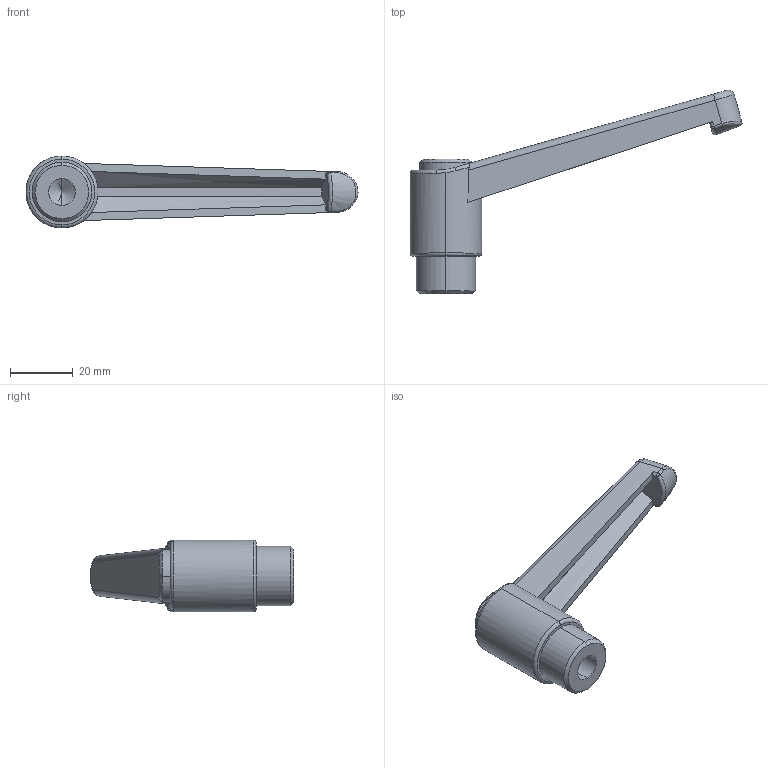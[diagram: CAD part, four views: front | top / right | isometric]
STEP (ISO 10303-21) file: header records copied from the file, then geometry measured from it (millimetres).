
FILE_DESCRIPTION (( 'STEP AP203' ), '1' );
FILE_NAME ('AS-405-92-M10.STEP', '2015-11-23T07:19:08', ( '' ), ( '' ), 'SwSTEP 2.0', 'SolidWorks 2014', '' );
FILE_SCHEMA (( 'CONFIG_CONTROL_DESIGN' ));
Length unit declared in the file: millimetre
Products named in the file (1): AS-405-92-M10
Bounding box: 106.06 x 65.02 x 23 mm (x, y, z)
Volume: 25123.4 mm3; surface area: 9350.7 mm2
Topology: 1 solids, 1 shells, 58 faces, 138 edges, 83 vertices
Faces by surface type: cylinder 17, plane 16, bspline 11, cone 6, torus 4, sphere 4
Entity records: 2183 total; most frequent: CARTESIAN_POINT 870, ORIENTED_EDGE 272, DIRECTION 245, EDGE_CURVE 136, AXIS2_PLACEMENT_3D 102, VERTEX_POINT 83, EDGE_LOOP 61, ADVANCED_FACE 58
